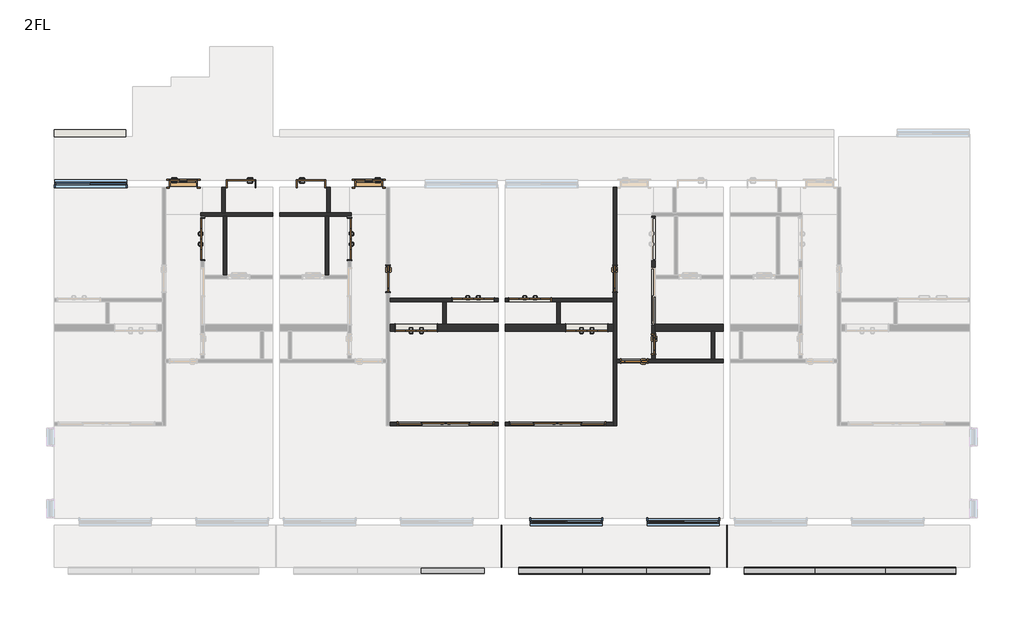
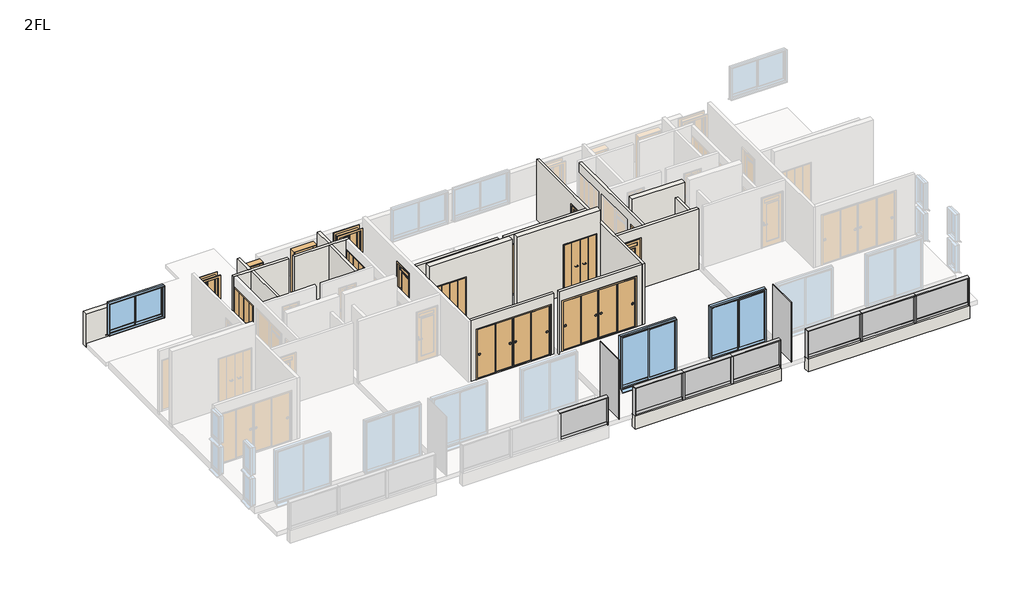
# One storey, part 2 of 3: 22 walls, 16 doors, 16 members, 9 plates, 3 windows.
"""IFC4 building model written with IfcOpenShell, lengths in millimetres."""

from ifc_helpers import new_model, si_unit, frame, origin, place, context, project, spatial, polyline, outline, extrude, faceted_brep, transform, mapped, element, save
from components import door_800x2000_a7d1584b, door_800x2000_010bfebf, w1200h2000_6a144d60, w1200h2000_98cacc9b, w1200h2000_99d19fb3, w1200h2000_ebe1d490, w2800h2000_670b855b, w2800h2000_04aa64cd, w600h2000_7f2747f4, w800h2000_1d97c4d4, w800h2000_13e9f519, w800h2000_ccb03061, w800h2000_0ab7d42c, member_25x150_3f8205e2, member_25x150_f694351b, member_25x150_e95393f9, member_70x150_851c8a9b, plate_9f48129f, plate_365944b3, plate_b830f844, plate_2f85ae4c, plate_cef4847d, window_2000x1200_fc91d1cf, window_2000x2000_f1ff98da

model = new_model("IFC4")

# Units and contexts
model_context = context("Model", 3, world=origin())
ifc_project = project(units=[si_unit("LENGTHUNIT", "METRE", prefix="MILLI")], contexts=[model_context])

# Site, building, storey
site = spatial("IfcSite", under=ifc_project)
building = spatial("IfcBuilding", under=site)
storey = spatial("IfcBuildingStorey", under=building, Name="2FL", Elevation=4000.0)

# Doors
placement = place(None, origin())
door_800x2000_shape = door_800x2000_a7d1584b(model_context)
element("IfcDoor", 1, ObjectType="片開き3 : 800x2000", at=placement, inside=storey, context=model_context, shape_type="MappedRepresentation", body=[
    mapped(door_800x2000_shape, transform((-7378.7187246, -5700.1171638, 4000.0), x_axis=(1.0, 0.0, 0.0), y_axis=(0.0, 1.0, 0.0), z_axis=(0.0, 0.0, 1.0))),
])
door_800x2000_2_shape = door_800x2000_010bfebf(model_context)
element("IfcDoor", 2, ObjectType="片開き3 : 800x2000", at=placement, inside=storey, context=model_context, shape_type="MappedRepresentation", body=[
    mapped(door_800x2000_2_shape, transform((-2078.7187246, -5700.1171638, 4000.0), x_axis=(-1.0, 0.0, 0.0), y_axis=(0.0, -1.0, 0.0), z_axis=(0.0, 0.0, 1.0))),
])
w1200h2000_shape = w1200h2000_6a144d60(model_context)
element("IfcDoor", 3, ObjectType="木製折戸 : w1200h2000", at=placement, inside=storey, context=model_context, shape_type="MappedRepresentation", body=[
    mapped(w1200h2000_shape, transform((-6828.7187246, -7280.1171638, 4100.0), x_axis=(0.0, 1.0, 0.0), y_axis=(-1.0, 0.0, 0.0), z_axis=(0.0, 0.0, 1.0))),
])
element("IfcDoor", 4, ObjectType="木製折戸 : w1200h2000", at=placement, inside=storey, context=model_context, shape_type="MappedRepresentation", body=[
    mapped(w1200h2000_shape, transform((2533.7812754, -9020.1171638, 4100.0), x_axis=(1.0, 0.0, 0.0), y_axis=(0.0, 1.0, 0.0), z_axis=(0.0, 0.0, 1.0))),
])
w1200h2000_2_shape = w1200h2000_98cacc9b(model_context)
element("IfcDoor", 5, ObjectType="木製折戸 : w1200h2000", at=placement, inside=storey, context=model_context, shape_type="MappedRepresentation", body=[
    mapped(w1200h2000_2_shape, transform((4158.7812754, -9820.1171638, 4100.0), x_axis=(-1.0, 0.0, 0.0), y_axis=(0.0, -1.0, 0.0), z_axis=(0.0, 0.0, 1.0))),
])
w1200h2000_3_shape = w1200h2000_99d19fb3(model_context)
element("IfcDoor", 6, ObjectType="木製折戸 : w1200h2000", at=placement, inside=storey, context=model_context, shape_type="MappedRepresentation", body=[
    mapped(w1200h2000_3_shape, transform((908.7812754, -9020.1171638, 4100.0), x_axis=(-1.0, 0.0, 0.0), y_axis=(0.0, -1.0, 0.0), z_axis=(0.0, 0.0, 1.0))),
])
element("IfcDoor", 7, ObjectType="木製折戸 : w1200h2000", at=placement, inside=storey, context=model_context, shape_type="MappedRepresentation", body=[
    mapped(w1200h2000_3_shape, transform((-2628.7187246, -7280.1171638, 4100.0), x_axis=(0.0, 1.0, 0.0), y_axis=(-1.0, 0.0, 0.0), z_axis=(0.0, 0.0, 1.0))),
])
w1200h2000_4_shape = w1200h2000_ebe1d490(model_context)
element("IfcDoor", 8, ObjectType="木製折戸 : w1200h2000", at=placement, inside=storey, context=model_context, shape_type="MappedRepresentation", body=[
    mapped(w1200h2000_4_shape, transform((-716.2187246, -9820.1171638, 4100.0), x_axis=(1.0, 0.0, 0.0), y_axis=(0.0, 1.0, 0.0), z_axis=(0.0, 0.0, 1.0))),
])
w2800h2000_shape = w2800h2000_670b855b(model_context)
element("IfcDoor", 9, ObjectType="引違い 4 枚 2 溝_襖 : w2800h2000", at=placement, inside=storey, context=model_context, shape_type="MappedRepresentation", body=[
    mapped(w2800h2000_shape, transform((3315.7457714, -12570.1171638, 4100.0), x_axis=(-1.0, 0.0, 0.0), y_axis=(0.0, -1.0, 0.0), z_axis=(0.0, 0.0, 1.0))),
])
w2800h2000_2_shape = w2800h2000_04aa64cd(model_context)
element("IfcDoor", 10, ObjectType="引違い 4 枚 2 溝_襖 : w2800h2000", at=placement, inside=storey, context=model_context, shape_type="MappedRepresentation", body=[
    mapped(w2800h2000_2_shape, transform((126.8167793, -12570.1171638, 4100.0), x_axis=(1.0, 0.0, 0.0), y_axis=(0.0, 1.0, 0.0), z_axis=(0.0, 0.0, 1.0))),
])
w600h2000_shape = w600h2000_7f2747f4(model_context)
element("IfcDoor", 11, ObjectType="片開戸CL2058 : w600h2000", at=placement, inside=storey, context=model_context, shape_type="MappedRepresentation", body=[
    mapped(w600h2000_shape, transform((6071.2812754, -10295.1171638, 4100.0), x_axis=(0.0, -1.0, 0.0), y_axis=(1.0, 0.0, 0.0), z_axis=(0.0, 0.0, 1.0))),
])
w800h2000_shape = w800h2000_1d97c4d4(model_context)
element("IfcDoor", 12, ObjectType="片開 : w800h2000", at=placement, inside=storey, context=model_context, shape_type="MappedRepresentation", body=[
    mapped(w800h2000_shape, transform((-5728.7187246, -5700.1171638, 4000.0), x_axis=(-1.0, 0.0, 0.0), y_axis=(0.0, -1.0, 0.0), z_axis=(0.0, 0.0, 1.0))),
])
w800h2000_2_shape = w800h2000_13e9f519(model_context)
element("IfcDoor", 13, ObjectType="片開戸CL2058 : w800h2000", at=placement, inside=storey, context=model_context, shape_type="MappedRepresentation", body=[
    mapped(w800h2000_2_shape, transform((4971.2812754, -8420.1171638, 4100.0), x_axis=(0.0, -1.0, 0.0), y_axis=(1.0, 0.0, 0.0), z_axis=(0.0, 0.0, 1.0))),
])
w800h2000_3_shape = w800h2000_ccb03061(model_context)
element("IfcDoor", 14, ObjectType="片開戸CL2058 : w800h2000", at=placement, inside=storey, context=model_context, shape_type="MappedRepresentation", body=[
    mapped(w800h2000_3_shape, transform((-1528.7187246, -8420.1171638, 4100.0), x_axis=(0.0, -1.0, 0.0), y_axis=(1.0, 0.0, 0.0), z_axis=(0.0, 0.0, 1.0))),
])
element("IfcDoor", 15, ObjectType="片開戸CL2058 : w800h2000", at=placement, inside=storey, context=model_context, shape_type="MappedRepresentation", body=[
    mapped(w800h2000_3_shape, transform((5521.2812754, -10770.1171638, 4100.0), x_axis=(-1.0, 0.0, 0.0), y_axis=(0.0, -1.0, 0.0), z_axis=(0.0, 0.0, 1.0))),
])
w800h2000_4_shape = w800h2000_0ab7d42c(model_context)
element("IfcDoor", 16, ObjectType="片開 : w800h2000", at=placement, inside=storey, context=model_context, shape_type="MappedRepresentation", body=[
    mapped(w800h2000_4_shape, transform((-3728.7187246, -5700.1171638, 4000.0), x_axis=(1.0, 0.0, 0.0), y_axis=(0.0, 1.0, 0.0), z_axis=(0.0, 0.0, 1.0))),
])

# Members
member_25x150_shape = member_25x150_3f8205e2(model_context)
element("IfcMember", 17, ObjectType="長方形のマリオン : 25x150", at=placement, inside=storey, context=model_context, shape_type="MappedRepresentation", body=[
    mapped(member_25x150_shape, transform((1221.2812754, -16770.1171638, 4000.0), x_axis=(1.0, 0.0, 0.0), y_axis=(0.0, -1.0, 0.0), z_axis=(0.0, 0.0, -1.0))),
])
element("IfcMember", 18, ObjectType="長方形のマリオン : 25x150", at=placement, inside=storey, context=model_context, shape_type="MappedRepresentation", body=[
    mapped(member_25x150_shape, transform((7671.2812754, -16770.1171638, 4000.0), x_axis=(1.0, 0.0, 0.0), y_axis=(0.0, -1.0, 0.0), z_axis=(0.0, 0.0, -1.0))),
])
element("IfcMember", 19, ObjectType="長方形のマリオン : 25x150", at=placement, inside=storey, context=model_context, shape_type="MappedRepresentation", body=[
    mapped(member_25x150_shape, transform((14721.2812754, -16770.1171638, 4000.0), x_axis=(1.0, 0.0, 0.0), y_axis=(0.0, -1.0, 0.0), z_axis=(0.0, 0.0, -1.0))),
])
element("IfcMember", 20, ObjectType="長方形のマリオン : 25x150", at=placement, inside=storey, context=model_context, shape_type="MappedRepresentation", body=[
    mapped(member_25x150_shape, transform((2221.2812754, -16770.1171638, 5075.0), x_axis=(-1.0, 0.0, 0.0), y_axis=(0.0, -1.0, 0.0), z_axis=(0.0, 0.0, 1.0))),
])
element("IfcMember", 21, ObjectType="長方形のマリオン : 25x150", at=placement, inside=storey, context=model_context, shape_type="MappedRepresentation", body=[
    mapped(member_25x150_shape, transform((8671.2812754, -16770.1171638, 5075.0), x_axis=(-1.0, 0.0, 0.0), y_axis=(0.0, -1.0, 0.0), z_axis=(0.0, 0.0, 1.0))),
])
member_25x150_2_shape = member_25x150_f694351b(model_context)
element("IfcMember", 22, ObjectType="長方形のマリオン : 25x150", at=placement, inside=storey, context=model_context, shape_type="MappedRepresentation", body=[
    mapped(member_25x150_2_shape, transform((1221.2812754, -16770.1171638, 5100.0), x_axis=(0.0, 0.0, 1.0), y_axis=(0.0, -1.0, 0.0), z_axis=(1.0, 0.0, 0.0))),
])
element("IfcMember", 23, ObjectType="長方形のマリオン : 25x150", at=placement, inside=storey, context=model_context, shape_type="MappedRepresentation", body=[
    mapped(member_25x150_2_shape, transform((7671.2812754, -16770.1171638, 5100.0), x_axis=(0.0, 0.0, 1.0), y_axis=(0.0, -1.0, 0.0), z_axis=(1.0, 0.0, 0.0))),
])
element("IfcMember", 24, ObjectType="長方形のマリオン : 25x150", at=placement, inside=storey, context=model_context, shape_type="MappedRepresentation", body=[
    mapped(member_25x150_2_shape, transform((4037.947942, -16770.1171638, 5100.0), x_axis=(0.0, 0.0, 1.0), y_axis=(0.0, -1.0, 0.0), z_axis=(1.0, 0.0, 0.0))),
])
element("IfcMember", 25, ObjectType="長方形のマリオン : 25x150", at=placement, inside=storey, context=model_context, shape_type="MappedRepresentation", body=[
    mapped(member_25x150_2_shape, transform((5854.6146087, -16770.1171638, 5100.0), x_axis=(0.0, 0.0, 1.0), y_axis=(0.0, -1.0, 0.0), z_axis=(1.0, 0.0, 0.0))),
])
member_25x150_3_shape = member_25x150_e95393f9(model_context)
element("IfcMember", 26, ObjectType="長方形のマリオン : 25x150", at=placement, inside=storey, context=model_context, shape_type="MappedRepresentation", body=[
    mapped(member_25x150_3_shape, transform((14721.2812754, -16770.1171638, 5100.0), x_axis=(0.0, 0.0, 1.0), y_axis=(0.0, -1.0, 0.0), z_axis=(1.0, 0.0, 0.0))),
])
element("IfcMember", 27, ObjectType="長方形のマリオン : 25x150", at=placement, inside=storey, context=model_context, shape_type="MappedRepresentation", body=[
    mapped(member_25x150_3_shape, transform((10687.947942, -16770.1171638, 5100.0), x_axis=(0.0, 0.0, 1.0), y_axis=(0.0, -1.0, 0.0), z_axis=(1.0, 0.0, 0.0))),
])
element("IfcMember", 28, ObjectType="長方形のマリオン : 25x150", at=placement, inside=storey, context=model_context, shape_type="MappedRepresentation", body=[
    mapped(member_25x150_3_shape, transform((12704.6146087, -16770.1171638, 5100.0), x_axis=(0.0, 0.0, 1.0), y_axis=(0.0, -1.0, 0.0), z_axis=(1.0, 0.0, 0.0))),
])
member_70x150_shape = member_70x150_851c8a9b(model_context)
element("IfcMember", 29, ObjectType="長方形のマリオン : 70x150", at=placement, inside=storey, context=model_context, shape_type="MappedRepresentation", body=[
    mapped(member_70x150_shape, transform((4037.947942, -16770.1171638, 4000.0), x_axis=(1.0, 0.0, 0.0), y_axis=(0.0, -1.0, 0.0), z_axis=(0.0, 0.0, -1.0))),
])
element("IfcMember", 30, ObjectType="長方形のマリオン : 70x150", at=placement, inside=storey, context=model_context, shape_type="MappedRepresentation", body=[
    mapped(member_70x150_shape, transform((5854.6146087, -16770.1171638, 4000.0), x_axis=(1.0, 0.0, 0.0), y_axis=(0.0, -1.0, 0.0), z_axis=(0.0, 0.0, -1.0))),
])
element("IfcMember", 31, ObjectType="長方形のマリオン : 70x150", at=placement, inside=storey, context=model_context, shape_type="MappedRepresentation", body=[
    mapped(member_70x150_shape, transform((10687.947942, -16770.1171638, 4000.0), x_axis=(1.0, 0.0, 0.0), y_axis=(0.0, -1.0, 0.0), z_axis=(0.0, 0.0, -1.0))),
])
element("IfcMember", 32, ObjectType="長方形のマリオン : 70x150", at=placement, inside=storey, context=model_context, shape_type="MappedRepresentation", body=[
    mapped(member_70x150_shape, transform((12704.6146087, -16770.1171638, 4000.0), x_axis=(1.0, 0.0, 0.0), y_axis=(0.0, -1.0, 0.0), z_axis=(0.0, 0.0, -1.0))),
])

# Plates
plate_shape = plate_9f48129f(model_context)
element("IfcPlate", 33, ObjectType="r パネル FIX 下框付 : 框 H100", at=placement, inside=storey, context=model_context, shape_type="MappedRepresentation", body=[
    mapped(plate_shape, transform((317.947942, -16770.1171638, 4000.0), x_axis=(1.0, 0.0, 0.0), y_axis=(0.0, 1.0, 0.0), z_axis=(0.0, 0.0, 1.0))),
])
element("IfcPlate", 34, ObjectType="r パネル FIX 下框付 : 框 H100", at=placement, inside=storey, context=model_context, shape_type="MappedRepresentation", body=[
    mapped(plate_shape, transform((3124.6146087, -16770.1171638, 4000.0), x_axis=(1.0, 0.0, 0.0), y_axis=(0.0, 1.0, 0.0), z_axis=(0.0, 0.0, 1.0))),
])
element("IfcPlate", 35, ObjectType="r パネル FIX 下框付 : 框 H100", at=placement, inside=storey, context=model_context, shape_type="MappedRepresentation", body=[
    mapped(plate_shape, transform((6767.947942, -16770.1171638, 4000.0), x_axis=(1.0, 0.0, 0.0), y_axis=(0.0, 1.0, 0.0), z_axis=(0.0, 0.0, 1.0))),
])
plate_2_shape = plate_365944b3(model_context)
element("IfcPlate", 36, ObjectType="r パネル FIX 下框付 : 框 H100", at=placement, inside=storey, context=model_context, shape_type="MappedRepresentation", body=[
    mapped(plate_2_shape, transform((4946.2812754, -16770.1171638, 4000.0), x_axis=(1.0, 0.0, 0.0), y_axis=(0.0, 1.0, 0.0), z_axis=(0.0, 0.0, 1.0))),
])
plate_3_shape = plate_b830f844(model_context)
element("IfcPlate", 37, ObjectType="r パネル FIX 下框付 : 框 H100", at=placement, inside=storey, context=model_context, shape_type="MappedRepresentation", body=[
    mapped(plate_3_shape, transform((9674.6146087, -16770.1171638, 4000.0), x_axis=(1.0, 0.0, 0.0), y_axis=(0.0, 1.0, 0.0), z_axis=(0.0, 0.0, 1.0))),
])
element("IfcPlate", 38, ObjectType="r パネル FIX 下框付 : 框 H100", at=placement, inside=storey, context=model_context, shape_type="MappedRepresentation", body=[
    mapped(plate_3_shape, transform((13717.947942, -16770.1171638, 4000.0), x_axis=(1.0, 0.0, 0.0), y_axis=(0.0, 1.0, 0.0), z_axis=(0.0, 0.0, 1.0))),
])
plate_4_shape = plate_2f85ae4c(model_context)
element("IfcPlate", 39, ObjectType="r パネル FIX 下框付 : 框 H100", at=placement, inside=storey, context=model_context, shape_type="MappedRepresentation", body=[
    mapped(plate_4_shape, transform((11696.2812754, -16770.1171638, 4000.0), x_axis=(1.0, 0.0, 0.0), y_axis=(0.0, 1.0, 0.0), z_axis=(0.0, 0.0, 1.0))),
])
plate_5_shape = plate_cef4847d(model_context)
element("IfcPlate", 40, ObjectType="システム パネル : 標準", at=placement, inside=storey, context=model_context, shape_type="MappedRepresentation", body=[
    mapped(plate_5_shape, transform((1721.2812754, -16070.1171638, 3950.0), x_axis=(0.0, -1.0, 0.0), y_axis=(1.0, 0.0, 0.0), z_axis=(0.0, 0.0, 1.0))),
])
element("IfcPlate", 41, ObjectType="システム パネル : 標準", at=placement, inside=storey, context=model_context, shape_type="MappedRepresentation", body=[
    mapped(plate_5_shape, transform((8171.2812754, -16070.1171638, 3950.0), x_axis=(0.0, -1.0, 0.0), y_axis=(1.0, 0.0, 0.0), z_axis=(0.0, 0.0, 1.0))),
])

# Walls
element("IfcWall", 42, ObjectType="(R)RC200", at=placement, inside=storey, context=model_context, shape_type="Brep", body=[
    faceted_brep([(1621.2812754, -9720.1171638, 4000.0), (146.2812754, -9720.1171638, 4000.0), (46.2812754, -9720.1171638, 4000.0), (-1478.7187246, -9720.1171638, 4000.0), (-1478.7187246, -9720.1171638, 7000.0), (1621.2812754, -9720.1171638, 7000.0), (-96.2187246, -9720.1171638, 6120.0), (-1336.2187246, -9720.1171638, 6120.0), (-1336.2187246, -9720.1171638, 4100.0), (-96.2187246, -9720.1171638, 4100.0), (1621.2812754, -9920.1171638, 4000.0), (1621.2812754, -9920.1171638, 7000.0), (-1478.7187246, -9920.1171638, 7000.0), (-1478.7187246, -9920.1171638, 4000.0), (-96.2187246, -9920.1171638, 6120.0), (-96.2187246, -9920.1171638, 4100.0), (-1336.2187246, -9920.1171638, 4100.0), (-1336.2187246, -9920.1171638, 6120.0)], [[[0, 1, 2, 3, 4, 5], [6, 7, 8, 9]], [[10, 11, 12, 13], [14, 15, 16, 17]], [[3, 2, 1, 0, 10, 13]], [[5, 4, 12, 11]], [[4, 3, 13, 12]], [[15, 14, 6, 9]], [[16, 15, 9, 8]], [[17, 16, 8, 7]], [[14, 17, 7, 6]], [[0, 5, 11, 10]]]),
])
element("IfcWall", 43, ObjectType="(R)RC200", at=placement, inside=storey, context=model_context, shape_type="Brep", body=[
    faceted_brep([(1821.2812754, -9920.1171638, 4000.0), (4921.2812754, -9920.1171638, 4000.0), (4921.2812754, -9920.1171638, 7000.0), (1821.2812754, -9920.1171638, 7000.0), (3538.7812754, -9920.1171638, 6120.0), (4778.7812754, -9920.1171638, 6120.0), (4778.7812754, -9920.1171638, 4100.0), (3538.7812754, -9920.1171638, 4100.0), (1821.2812754, -9720.1171638, 4000.0), (1821.2812754, -9720.1171638, 7000.0), (4921.2812754, -9720.1171638, 7000.0), (4921.2812754, -9720.1171638, 4000.0), (3396.2812754, -9720.1171638, 4000.0), (3296.2812754, -9720.1171638, 4000.0), (3538.7812754, -9720.1171638, 6120.0), (3538.7812754, -9720.1171638, 4100.0), (4778.7812754, -9720.1171638, 4100.0), (4778.7812754, -9720.1171638, 6120.0)], [[[0, 1, 2, 3], [4, 5, 6, 7]], [[8, 9, 10, 11, 12, 13], [14, 15, 16, 17]], [[1, 0, 8, 13, 12, 11]], [[3, 2, 10, 9]], [[2, 1, 11, 10]], [[15, 14, 4, 7]], [[16, 15, 7, 6]], [[17, 16, 6, 5]], [[14, 17, 5, 4]], [[0, 3, 9, 8]]]),
])
element("IfcWall", 44, ObjectType="(R)RC200", at=placement, inside=storey, context=model_context, shape_type="Brep", body=[
    faceted_brep([(6121.2812754, -9920.1171638, 4000.0), (7721.2812754, -9920.1171638, 4000.0), (7821.2812754, -9920.1171638, 4000.0), (8071.2812754, -9920.1171638, 4000.0), (8071.2812754, -9920.1171638, 7000.0), (6121.2812754, -9920.1171638, 7000.0), (6121.2812754, -9720.1171638, 4000.0), (6121.2812754, -9720.1171638, 7000.0), (8071.2812754, -9720.1171638, 7000.0), (8071.2812754, -9720.1171638, 4000.0)], [[[0, 1, 2, 3, 4, 5]], [[6, 7, 8, 9]], [[3, 2, 1, 0, 6, 9]], [[5, 4, 8, 7]], [[0, 5, 7, 6]], [[4, 3, 9, 8]]]),
])
element("IfcWall", 45, ObjectType="(R)RC200", at=placement, inside=storey, context=model_context, shape_type="SweptSolid", body=[
    extrude(outline(polyline([(-9028.7187246, -4350.1171638), (-11078.7187246, -4350.1171638), (-11078.7187246, -4150.1171638), (-9028.7187246, -4150.1171638), (-9028.7187246, -4350.1171638)])), frame((0.0, 0.0, 3800.0), z_axis=(0.0, 0.0, 1.0), x_axis=(1.0, 0.0, 0.0)), (0.0, 0.0, 1.0), 1300.0),
])
element("IfcWall", 46, ObjectType="(R)RC200", at=placement, inside=storey, context=model_context, shape_type="SweptSolid", body=[
    extrude(outline(polyline([(7671.2812754, -16870.1171638), (2221.2812754, -16870.1171638), (2221.2812754, -16670.1171638), (7671.2812754, -16670.1171638), (7671.2812754, -16870.1171638)])), frame((0.0, 0.0, 3500.0), z_axis=(0.0, 0.0, 1.0), x_axis=(1.0, 0.0, 0.0)), (0.0, 0.0, 1.0), 500.0),
])
element("IfcWall", 47, ObjectType="(R)RC200", at=placement, inside=storey, context=model_context, shape_type="SweptSolid", body=[
    extrude(outline(polyline([(14721.2812754, -16870.1171638), (8671.2812754, -16870.1171638), (8671.2812754, -16670.1171638), (14721.2812754, -16670.1171638), (14721.2812754, -16870.1171638)])), frame((0.0, 0.0, 3500.0), z_axis=(0.0, 0.0, 1.0), x_axis=(1.0, 0.0, 0.0)), (0.0, 0.0, 1.0), 500.0),
])
element("IfcWall", 48, ObjectType="(L1)LGS100", at=placement, inside=storey, context=model_context, shape_type="Brep", body=[
    faceted_brep([(-6878.7187246, -6630.1171638, 4000.0), (-6778.7187246, -6630.1171638, 4000.0), (-6238.7187246, -6630.1171638, 4000.0), (-6138.7187246, -6630.1171638, 4000.0), (-4828.7187246, -6630.1171638, 4000.0), (-4828.7187246, -6630.1171638, 6500.0), (-6138.7187246, -6630.1171638, 6500.0), (-6238.7187246, -6630.1171638, 6500.0), (-6778.7187246, -6630.1171638, 6500.0), (-6878.7187246, -6630.1171638, 6500.0), (-6878.7187246, -6530.1171638, 4000.0), (-6878.7187246, -6530.1171638, 6500.0), (-6278.7187246, -6530.1171638, 6500.0), (-6178.7187246, -6530.1171638, 6500.0), (-4828.7187246, -6530.1171638, 6500.0), (-4828.7187246, -6530.1171638, 4000.0), (-6178.7187246, -6530.1171638, 4000.0), (-6278.7187246, -6530.1171638, 4000.0)], [[[0, 1, 2, 3, 4, 5, 6, 7, 8, 9]], [[10, 11, 12, 13, 14, 15, 16, 17]], [[4, 3, 2, 1, 0, 10, 17, 16, 15]], [[9, 8, 7, 6, 5, 14, 13, 12, 11]], [[0, 9, 11, 10]], [[5, 4, 15, 14]]]),
])
element("IfcWall", 49, ObjectType="(L1)LGS100", at=placement, inside=storey, context=model_context, shape_type="SweptSolid", body=[
    extrude(outline(polyline([(-6178.7187246, -5800.1171638), (-6178.7187246, -6530.1171638), (-6278.7187246, -6530.1171638), (-6278.7187246, -5800.1171638), (-6178.7187246, -5800.1171638)])), frame((0.0, 0.0, 4000.0), z_axis=(0.0, 0.0, 1.0), x_axis=(1.0, 0.0, 0.0)), (0.0, 0.0, 1.0), 2500.0),
])
element("IfcWall", 50, ObjectType="(L1)LGS100", at=placement, inside=storey, context=model_context, shape_type="SweptSolid", body=[
    extrude(outline(polyline([(-6138.7187246, -6630.1171638), (-6138.7187246, -8320.1171638), (-6238.7187246, -8320.1171638), (-6238.7187246, -6630.1171638), (-6138.7187246, -6630.1171638)])), frame((0.0, 0.0, 4000.0), z_axis=(0.0, 0.0, 1.0), x_axis=(1.0, 0.0, 0.0)), (0.0, 0.0, 1.0), 2500.0),
])
element("IfcWall", 51, ObjectType="(L1)LGS100", at=placement, inside=storey, context=model_context, shape_type="Brep", body=[
    faceted_brep([(1621.2812754, -8970.1171638, 4000.0), (-1478.7187246, -8970.1171638, 4000.0), (-1478.7187246, -8970.1171638, 6500.0), (1621.2812754, -8970.1171638, 6500.0), (288.7812754, -8970.1171638, 6120.0), (288.7812754, -8970.1171638, 4100.0), (1528.7812754, -8970.1171638, 4100.0), (1528.7812754, -8970.1171638, 6120.0), (-1478.7187246, -9070.1171638, 4000.0), (46.2812754, -9070.1171638, 4000.0), (146.2812754, -9070.1171638, 4000.0), (1621.2812754, -9070.1171638, 4000.0), (1621.2812754, -9070.1171638, 6500.0), (146.2812754, -9070.1171638, 6500.0), (46.2812754, -9070.1171638, 6500.0), (-1478.7187246, -9070.1171638, 6500.0), (288.7812754, -9070.1171638, 4100.0), (288.7812754, -9070.1171638, 6120.0), (1528.7812754, -9070.1171638, 6120.0), (1528.7812754, -9070.1171638, 4100.0)], [[[0, 1, 2, 3], [4, 5, 6, 7]], [[8, 9, 10, 11, 12, 13, 14, 15], [16, 17, 18, 19]], [[1, 0, 11, 10, 9, 8]], [[3, 2, 15, 14, 13, 12]], [[2, 1, 8, 15]], [[4, 17, 16, 5]], [[5, 16, 19, 6]], [[17, 4, 7, 18]], [[18, 7, 6, 19]], [[0, 3, 12, 11]]]),
])
element("IfcWall", 52, ObjectType="(L1)LGS100", at=placement, inside=storey, context=model_context, shape_type="SweptSolid", body=[
    extrude(outline(polyline([(146.2812754, -9070.1171638), (146.2812754, -9720.1171638), (46.2812754, -9720.1171638), (46.2812754, -9070.1171638), (146.2812754, -9070.1171638)])), frame((0.0, 0.0, 4000.0), z_axis=(0.0, 0.0, 1.0), x_axis=(1.0, 0.0, 0.0)), (0.0, 0.0, 1.0), 2500.0),
])
element("IfcWall", 53, ObjectType="(L1)LGS100", at=placement, inside=storey, context=model_context, shape_type="Brep", body=[
    faceted_brep([(-2578.7187246, -6530.1171638, 4000.0), (-3178.7187246, -6530.1171638, 4000.0), (-3278.7187246, -6530.1171638, 4000.0), (-4628.7187246, -6530.1171638, 4000.0), (-4628.7187246, -6530.1171638, 6500.0), (-3278.7187246, -6530.1171638, 6500.0), (-3178.7187246, -6530.1171638, 6500.0), (-2578.7187246, -6530.1171638, 6500.0), (-2578.7187246, -6630.1171638, 4000.0), (-2578.7187246, -6630.1171638, 6500.0), (-2678.7187246, -6630.1171638, 6500.0), (-3218.7187246, -6630.1171638, 6500.0), (-3318.7187246, -6630.1171638, 6500.0), (-4628.7187246, -6630.1171638, 6500.0), (-4628.7187246, -6630.1171638, 4000.0), (-3318.7187246, -6630.1171638, 4000.0), (-3218.7187246, -6630.1171638, 4000.0), (-2678.7187246, -6630.1171638, 4000.0)], [[[0, 1, 2, 3, 4, 5, 6, 7]], [[8, 9, 10, 11, 12, 13, 14, 15, 16, 17]], [[3, 2, 1, 0, 8, 17, 16, 15, 14]], [[7, 6, 5, 4, 13, 12, 11, 10, 9]], [[0, 7, 9, 8]], [[4, 3, 14, 13]]]),
])
element("IfcWall", 54, ObjectType="(L1)LGS100", at=placement, inside=storey, context=model_context, shape_type="SweptSolid", body=[
    extrude(outline(polyline([(-3178.7187246, -5800.1171638), (-3178.7187246, -6530.1171638), (-3278.7187246, -6530.1171638), (-3278.7187246, -5800.1171638), (-3178.7187246, -5800.1171638)])), frame((0.0, 0.0, 4000.0), z_axis=(0.0, 0.0, 1.0), x_axis=(1.0, 0.0, 0.0)), (0.0, 0.0, 1.0), 2500.0),
])
element("IfcWall", 55, ObjectType="(L1)LGS100", at=placement, inside=storey, context=model_context, shape_type="SweptSolid", body=[
    extrude(outline(polyline([(-3218.7187246, -6630.1171638), (-3218.7187246, -8320.1171638), (-3318.7187246, -8320.1171638), (-3318.7187246, -6630.1171638), (-3218.7187246, -6630.1171638)])), frame((0.0, 0.0, 4000.0), z_axis=(0.0, 0.0, 1.0), x_axis=(1.0, 0.0, 0.0)), (0.0, 0.0, 1.0), 2500.0),
])
element("IfcWall", 56, ObjectType="(L1)LGS100", at=placement, inside=storey, context=model_context, shape_type="SweptSolid", body=[
    extrude(outline(polyline([(4000.0, 1621.2812754), (6500.0, 1621.2812754), (6500.0, -1478.7187246), (4000.0, -1478.7187246), (4000.0, 1621.2812754)]), holes=[polyline([(6100.0, 1521.2812754), (4100.0, 1521.2812754), (4100.0, -1278.7187246), (6100.0, -1278.7187246), (6100.0, 1521.2812754)])]), frame((0.0, -12620.1171638, 0.0), z_axis=(0.0, 1.0, 0.0), x_axis=(0.0, 0.0, 1.0)), (0.0, 0.0, 1.0), 100.0),
])
element("IfcWall", 57, ObjectType="(L1)LGS100", at=placement, inside=storey, context=model_context, shape_type="Brep", body=[
    faceted_brep([(1821.2812754, -9070.1171638, 4000.0), (3296.2812754, -9070.1171638, 4000.0), (3396.2812754, -9070.1171638, 4000.0), (4921.2812754, -9070.1171638, 4000.0), (4921.2812754, -9070.1171638, 6500.0), (3396.2812754, -9070.1171638, 6500.0), (3296.2812754, -9070.1171638, 6500.0), (1821.2812754, -9070.1171638, 6500.0), (3153.7812754, -9070.1171638, 6120.0), (3153.7812754, -9070.1171638, 4100.0), (1913.7812754, -9070.1171638, 4100.0), (1913.7812754, -9070.1171638, 6120.0), (4921.2812754, -8970.1171638, 4000.0), (1821.2812754, -8970.1171638, 4000.0), (1821.2812754, -8970.1171638, 6500.0), (4921.2812754, -8970.1171638, 6500.0), (3153.7812754, -8970.1171638, 4100.0), (3153.7812754, -8970.1171638, 6120.0), (1913.7812754, -8970.1171638, 6120.0), (1913.7812754, -8970.1171638, 4100.0)], [[[0, 1, 2, 3, 4, 5, 6, 7], [8, 9, 10, 11]], [[12, 13, 14, 15], [16, 17, 18, 19]], [[3, 2, 1, 0, 13, 12]], [[7, 6, 5, 4, 15, 14]], [[4, 3, 12, 15]], [[8, 17, 16, 9]], [[9, 16, 19, 10]], [[17, 8, 11, 18]], [[18, 11, 10, 19]], [[0, 7, 14, 13]]]),
])
element("IfcWall", 58, ObjectType="(L1)LGS100", at=placement, inside=storey, context=model_context, shape_type="SweptSolid", body=[
    extrude(outline(polyline([(3396.2812754, -9070.1171638), (3396.2812754, -9720.1171638), (3296.2812754, -9720.1171638), (3296.2812754, -9070.1171638), (3396.2812754, -9070.1171638)])), frame((0.0, 0.0, 4000.0), z_axis=(0.0, 0.0, 1.0), x_axis=(1.0, 0.0, 0.0)), (0.0, 0.0, 1.0), 2500.0),
])
element("IfcWall", 59, ObjectType="(L1)LGS100", at=placement, inside=storey, context=model_context, shape_type="Brep", body=[
    faceted_brep([(5021.2812754, -12620.1171638, 4000.0), (5021.2812754, -10820.1171638, 4000.0), (5021.2812754, -10720.1171638, 4000.0), (5021.2812754, -5800.1171638, 4000.0), (5021.2812754, -5800.1171638, 6500.0), (5021.2812754, -10720.1171638, 6500.0), (5021.2812754, -10820.1171638, 6500.0), (5021.2812754, -12620.1171638, 6500.0), (5021.2812754, -8820.1171638, 4100.0), (5021.2812754, -8820.1171638, 6100.0), (5021.2812754, -8020.1171638, 6100.0), (5021.2812754, -8020.1171638, 4100.0), (4921.2812754, -12620.1171638, 4000.0), (4921.2812754, -12620.1171638, 6500.0), (4921.2812754, -12520.1171638, 6500.0), (4921.2812754, -9070.1171638, 6500.0), (4921.2812754, -8970.1171638, 6500.0), (4921.2812754, -5800.1171638, 6500.0), (4921.2812754, -5800.1171638, 4000.0), (4921.2812754, -8970.1171638, 4000.0), (4921.2812754, -9070.1171638, 4000.0), (4921.2812754, -9720.1171638, 4000.0), (4921.2812754, -9920.1171638, 4000.0), (4921.2812754, -12520.1171638, 4000.0), (4921.2812754, -8820.1171638, 4100.0), (4921.2812754, -8020.1171638, 4100.0), (4921.2812754, -8020.1171638, 6100.0), (4921.2812754, -8820.1171638, 6100.0)], [[[0, 1, 2, 3, 4, 5, 6, 7], [8, 9, 10, 11]], [[12, 13, 14, 15, 16, 17, 18, 19, 20, 21, 22, 23], [24, 25, 26, 27]], [[3, 2, 1, 0, 12, 23, 22, 21, 20, 19, 18]], [[7, 6, 5, 4, 17, 16, 15, 14, 13]], [[0, 7, 13, 12]], [[9, 8, 24, 27]], [[10, 9, 27, 26]], [[11, 10, 26, 25]], [[8, 11, 25, 24]], [[4, 3, 18, 17]]]),
])
element("IfcWall", 60, ObjectType="(L1)LGS100", at=placement, inside=storey, context=model_context, shape_type="Brep", body=[
    faceted_brep([(6121.2812754, -10720.1171638, 4000.0), (6121.2812754, -9920.1171638, 4000.0), (6121.2812754, -9720.1171638, 4000.0), (6121.2812754, -8420.1171638, 4000.0), (6121.2812754, -8320.1171638, 4000.0), (6121.2812754, -6630.1171638, 4000.0), (6121.2812754, -6630.1171638, 6500.0), (6121.2812754, -8320.1171638, 6500.0), (6121.2812754, -8420.1171638, 6500.0), (6121.2812754, -10720.1171638, 6500.0), (6121.2812754, -10595.1171638, 4100.0), (6121.2812754, -10595.1171638, 6100.0), (6121.2812754, -9995.1171638, 6100.0), (6121.2812754, -9995.1171638, 4100.0), (6121.2812754, -6660.1171638, 4100.0), (6121.2812754, -7900.1171638, 4100.0), (6121.2812754, -7900.1171638, 6120.0), (6121.2812754, -6660.1171638, 6120.0), (6121.2812754, -9745.1171638, 4100.0), (6121.2812754, -9745.1171638, 6140.0), (6121.2812754, -8095.1171638, 6140.0), (6121.2812754, -8095.1171638, 4100.0), (6021.2812754, -6630.1171638, 4000.0), (6021.2812754, -10720.1171638, 4000.0), (6021.2812754, -10720.1171638, 6500.0), (6021.2812754, -6630.1171638, 6500.0), (6021.2812754, -10595.1171638, 4100.0), (6021.2812754, -9995.1171638, 4100.0), (6021.2812754, -9995.1171638, 6100.0), (6021.2812754, -10595.1171638, 6100.0), (6021.2812754, -7900.1171638, 4100.0), (6021.2812754, -6660.1171638, 4100.0), (6021.2812754, -6660.1171638, 6120.0), (6021.2812754, -7900.1171638, 6120.0), (6021.2812754, -9745.1171638, 4100.0), (6021.2812754, -8095.1171638, 4100.0), (6021.2812754, -8095.1171638, 6140.0), (6021.2812754, -9745.1171638, 6140.0)], [[[0, 1, 2, 3, 4, 5, 6, 7, 8, 9], [10, 11, 12, 13], [14, 15, 16, 17], [18, 19, 20, 21]], [[22, 23, 24, 25], [26, 27, 28, 29], [30, 31, 32, 33], [34, 35, 36, 37]], [[5, 4, 3, 2, 1, 0, 23, 22]], [[9, 8, 7, 6, 25, 24]], [[0, 9, 24, 23]], [[11, 10, 26, 29]], [[12, 11, 29, 28]], [[13, 12, 28, 27]], [[10, 13, 27, 26]], [[14, 31, 30, 15]], [[15, 30, 33, 16]], [[16, 33, 32, 17]], [[19, 18, 34, 37]], [[20, 19, 37, 36]], [[21, 20, 36, 35]], [[18, 21, 35, 34]], [[31, 14, 17, 32]], [[6, 5, 22, 25]]]),
])
element("IfcWall", 61, ObjectType="(L1)LGS100", at=placement, inside=storey, context=model_context, shape_type="SweptSolid", body=[
    extrude(outline(polyline([(7821.2812754, -9920.1171638), (7821.2812754, -10720.1171638), (7721.2812754, -10720.1171638), (7721.2812754, -9920.1171638), (7821.2812754, -9920.1171638)])), frame((0.0, 0.0, 4000.0), z_axis=(0.0, 0.0, 1.0), x_axis=(1.0, 0.0, 0.0)), (0.0, 0.0, 1.0), 2500.0),
])
element("IfcWall", 62, ObjectType="(L1)LGS100", at=placement, inside=storey, context=model_context, shape_type="Brep", body=[
    faceted_brep([(5021.2812754, -10820.1171638, 4000.0), (8071.2812754, -10820.1171638, 4000.0), (8071.2812754, -10820.1171638, 6500.0), (5021.2812754, -10820.1171638, 6500.0), (5121.2812754, -10820.1171638, 4100.0), (5121.2812754, -10820.1171638, 6100.0), (5921.2812754, -10820.1171638, 6100.0), (5921.2812754, -10820.1171638, 4100.0), (8071.2812754, -10720.1171638, 4000.0), (7821.2812754, -10720.1171638, 4000.0), (7721.2812754, -10720.1171638, 4000.0), (6121.2812754, -10720.1171638, 4000.0), (6021.2812754, -10720.1171638, 4000.0), (5021.2812754, -10720.1171638, 4000.0), (5021.2812754, -10720.1171638, 6500.0), (6021.2812754, -10720.1171638, 6500.0), (6121.2812754, -10720.1171638, 6500.0), (7721.2812754, -10720.1171638, 6500.0), (7821.2812754, -10720.1171638, 6500.0), (8071.2812754, -10720.1171638, 6500.0), (5121.2812754, -10720.1171638, 6100.0), (5121.2812754, -10720.1171638, 4100.0), (5921.2812754, -10720.1171638, 4100.0), (5921.2812754, -10720.1171638, 6100.0)], [[[0, 1, 2, 3], [4, 5, 6, 7]], [[8, 9, 10, 11, 12, 13, 14, 15, 16, 17, 18, 19], [20, 21, 22, 23]], [[1, 0, 13, 12, 11, 10, 9, 8]], [[3, 2, 19, 18, 17, 16, 15, 14]], [[0, 3, 14, 13]], [[4, 21, 20, 5]], [[5, 20, 23, 6]], [[6, 23, 22, 7]], [[21, 4, 7, 22]], [[2, 1, 8, 19]]]),
])
element("IfcWall", 63, ObjectType="(L1)LGS100", at=placement, inside=storey, context=model_context, shape_type="SweptSolid", body=[
    extrude(outline(polyline([(4000.0, 1821.2812754), (4000.0, 4921.2812754), (6500.0, 4921.2812754), (6500.0, 1821.2812754), (4000.0, 1821.2812754)]), holes=[polyline([(6100.0, 1921.2812754), (6100.0, 4721.2812754), (4100.0, 4721.2812754), (4100.0, 1921.2812754), (6100.0, 1921.2812754)])]), frame((0.0, -12620.1171638, 0.0), z_axis=(0.0, 1.0, 0.0), x_axis=(0.0, 0.0, 1.0)), (0.0, 0.0, 1.0), 100.0),
])

# Windows
window_2000x1200_shape = window_2000x1200_fc91d1cf(model_context)
element("IfcWindow", 64, ObjectType="鋼製_一般枠_引違い-二枚 : 2000x1200", at=placement, inside=storey, context=model_context, shape_type="MappedRepresentation", body=[
    mapped(window_2000x1200_shape, transform((-10028.7187246, -5700.1171638, 4250.0), x_axis=(1.0, 0.0, 0.0), y_axis=(0.0, 1.0, 0.0), z_axis=(0.0, 0.0, 1.0))),
])
window_2000x2000_shape = window_2000x2000_f1ff98da(model_context)
element("IfcWindow", 65, ObjectType="鋼製_一般枠_引違い-二枚 : 2000x2000", at=placement, inside=storey, context=model_context, shape_type="MappedRepresentation", body=[
    mapped(window_2000x2000_shape, transform((3571.2812754, -15370.1171638, 3200.0), x_axis=(-1.0, 0.0, 0.0), y_axis=(0.0, -1.0, 0.0), z_axis=(0.0, 0.0, 1.0))),
])
element("IfcWindow", 66, ObjectType="鋼製_一般枠_引違い-二枚 : 2000x2000", at=placement, inside=storey, context=model_context, shape_type="MappedRepresentation", body=[
    mapped(window_2000x2000_shape, transform((6921.2812754, -15370.1171638, 3200.0), x_axis=(-1.0, 0.0, 0.0), y_axis=(0.0, -1.0, 0.0), z_axis=(0.0, 0.0, 1.0))),
])

save(model, "model.ifc")
